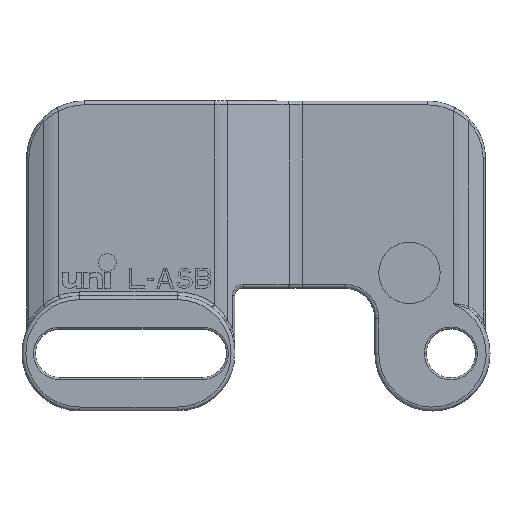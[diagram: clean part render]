
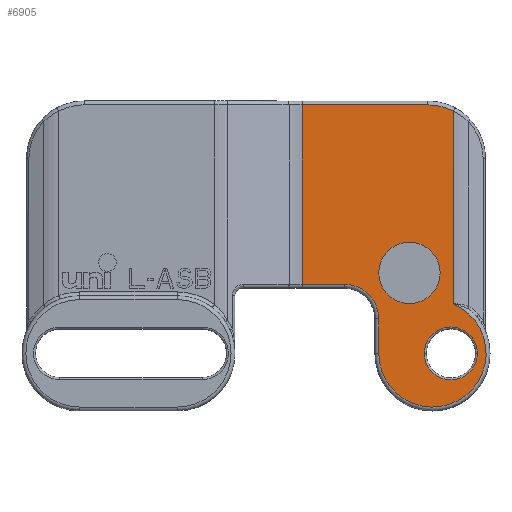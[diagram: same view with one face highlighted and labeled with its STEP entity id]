
A CAD part, top view. The second image highlights one B-rep face of the part: STEP entity #6905.
In plain terms, the highlighted planar face has unit normal (0, 0, 1).
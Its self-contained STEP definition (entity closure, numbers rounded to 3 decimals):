
#1748=CARTESIAN_POINT('',(23.,-7.5,0.));
#1749=DIRECTION('',(0.,0.,1.));
#1750=DIRECTION('',(-1.,0.,0.));
#1751=AXIS2_PLACEMENT_3D('',#1748,#1749,#1750);
#1753=DIRECTION('',(0.,-1.,0.));
#1754=VECTOR('',#1753,4.5);
#1755=CARTESIAN_POINT('',(16.,-3.,0.));
#1756=LINE('',#1755,#1754);
#1757=CARTESIAN_POINT('',(11.5,-3.,0.));
#1758=DIRECTION('',(0.,0.,-1.));
#1759=DIRECTION('',(0.,1.,0.));
#1760=AXIS2_PLACEMENT_3D('',#1757,#1758,#1759);
#1762=DIRECTION('',(1.,0.,0.));
#1763=VECTOR('',#1762,5.489);
#1764=CARTESIAN_POINT('',(6.011,1.5,0.));
#1765=LINE('',#1764,#1763);
#1766=DIRECTION('',(0.,1.,0.));
#1767=VECTOR('',#1766,23.4);
#1768=CARTESIAN_POINT('',(6.011,1.5,0.));
#1769=LINE('',#1768,#1767);
#1770=DIRECTION('',(1.,0.,0.));
#1771=VECTOR('',#1770,16.389);
#1772=CARTESIAN_POINT('',(6.011,24.9,0.));
#1773=LINE('',#1772,#1771);
#1774=CARTESIAN_POINT('',(22.4,17.9,0.));
#1775=DIRECTION('',(0.,0.,-1.));
#1776=DIRECTION('',(0.,1.,0.));
#1777=AXIS2_PLACEMENT_3D('',#1774,#1775,#1776);
#1779=CARTESIAN_POINT('',(25.4,-7.5,0.));
#1780=DIRECTION('',(0.,0.,-1.));
#1781=DIRECTION('',(1.,0.,0.));
#1782=AXIS2_PLACEMENT_3D('',#1779,#1780,#1781);
#1784=CARTESIAN_POINT('',(25.4,-7.5,0.));
#1785=DIRECTION('',(0.,0.,-1.));
#1786=DIRECTION('',(-1.,0.,0.));
#1787=AXIS2_PLACEMENT_3D('',#1784,#1785,#1786);
#1789=CARTESIAN_POINT('',(20.,3.,0.));
#1790=DIRECTION('',(0.,0.,1.));
#1791=DIRECTION('',(1.,0.,0.));
#1792=AXIS2_PLACEMENT_3D('',#1789,#1790,#1791);
#1794=CARTESIAN_POINT('',(20.,3.,0.));
#1795=DIRECTION('',(0.,0.,1.));
#1796=DIRECTION('',(-1.,0.,0.));
#1797=AXIS2_PLACEMENT_3D('',#1794,#1795,#1796);
#1838=CARTESIAN_POINT('',(25.724,-1.052,0.));
#1840=DIRECTION('',(0.,1.,0.));
#1841=VECTOR('',#1840,25.112);
#1842=CARTESIAN_POINT('',(25.724,-1.052,0.));
#1843=LINE('',#1842,#1841);
#1844=CARTESIAN_POINT('',(25.724,24.061,
0.));
#3789=CARTESIAN_POINT('',(6.011,1.5,0.));
#3790=CARTESIAN_POINT('',(6.011,24.9,0.));
#3791=VERTEX_POINT('',#3789);
#3792=VERTEX_POINT('',#3790);
#3810=VERTEX_POINT('',#1844);
#3813=CARTESIAN_POINT('',(22.4,24.9,0.));
#3814=VERTEX_POINT('',#3813);
#3907=VERTEX_POINT('',#1838);
#3917=CARTESIAN_POINT('',(16.,-7.5,0.));
#3918=VERTEX_POINT('',#3917);
#3953=CARTESIAN_POINT('',(28.85,-7.5,0.));
#3954=CARTESIAN_POINT('',(21.95,-7.5,0.));
#3955=VERTEX_POINT('',#3953);
#3956=VERTEX_POINT('',#3954);
#3977=CARTESIAN_POINT('',(16.,-3.,0.));
#3978=VERTEX_POINT('',#3977);
#3981=CARTESIAN_POINT('',(11.5,1.5,0.));
#3982=VERTEX_POINT('',#3981);
#4025=CARTESIAN_POINT('',(24.,3.,0.));
#4026=CARTESIAN_POINT('',(16.,3.,0.));
#4027=VERTEX_POINT('',#4025);
#4028=VERTEX_POINT('',#4026);
#6873=CARTESIAN_POINT('',(5.133,-15.,0.));
#6874=DIRECTION('',(0.,0.,1.));
#6875=DIRECTION('',(1.,0.,0.));
#6876=AXIS2_PLACEMENT_3D('',#6873,#6874,#6875);
#6877=PLANE('',#6876);
#6879=ORIENTED_EDGE('',*,*,#6878,.F.);
#6881=ORIENTED_EDGE('',*,*,#6880,.F.);
#6883=ORIENTED_EDGE('',*,*,#6882,.F.);
#6885=ORIENTED_EDGE('',*,*,#6884,.F.);
#6886=ORIENTED_EDGE('',*,*,#6864,.T.);
#6887=ORIENTED_EDGE('',*,*,#5903,.T.);
#6888=ORIENTED_EDGE('',*,*,#5919,.T.);
#6890=ORIENTED_EDGE('',*,*,#6889,.F.);
#6891=EDGE_LOOP('',(#6879,#6881,#6883,#6885,#6886,#6887,#6888,#6890));
#6892=FACE_OUTER_BOUND('',#6891,.F.);
#6894=ORIENTED_EDGE('',*,*,#6893,.F.);
#6896=ORIENTED_EDGE('',*,*,#6895,.F.);
#6897=EDGE_LOOP('',(#6894,#6896));
#6898=FACE_BOUND('',#6897,.F.);
#6900=ORIENTED_EDGE('',*,*,#6899,.T.);
#6902=ORIENTED_EDGE('',*,*,#6901,.T.);
#6903=EDGE_LOOP('',(#6900,#6902));
#6904=FACE_BOUND('',#6903,.F.);
#1752=CIRCLE('',#1751,7.);
#1761=CIRCLE('',#1760,4.5);
#1778=CIRCLE('',#1777,7.);
#1783=CIRCLE('',#1782,3.45);
#1788=CIRCLE('',#1787,3.45);
#1793=CIRCLE('',#1792,4.);
#1798=CIRCLE('',#1797,4.);
#5903=EDGE_CURVE('',#3792,#3814,#1773,.T.);
#5919=EDGE_CURVE('',#3814,#3810,#1778,.T.);
#6864=EDGE_CURVE('',#3791,#3792,#1769,.T.);
#6878=EDGE_CURVE('',#3918,#3907,#1752,.T.);
#6880=EDGE_CURVE('',#3978,#3918,#1756,.T.);
#6882=EDGE_CURVE('',#3982,#3978,#1761,.T.);
#6884=EDGE_CURVE('',#3791,#3982,#1765,.T.);
#6889=EDGE_CURVE('',#3907,#3810,#1843,.T.);
#6893=EDGE_CURVE('',#3955,#3956,#1783,.T.);
#6895=EDGE_CURVE('',#3956,#3955,#1788,.T.);
#6899=EDGE_CURVE('',#4027,#4028,#1793,.T.);
#6901=EDGE_CURVE('',#4028,#4027,#1798,.T.);
#6905=ADVANCED_FACE('',(#6892,#6898,#6904),#6877,.T.);
